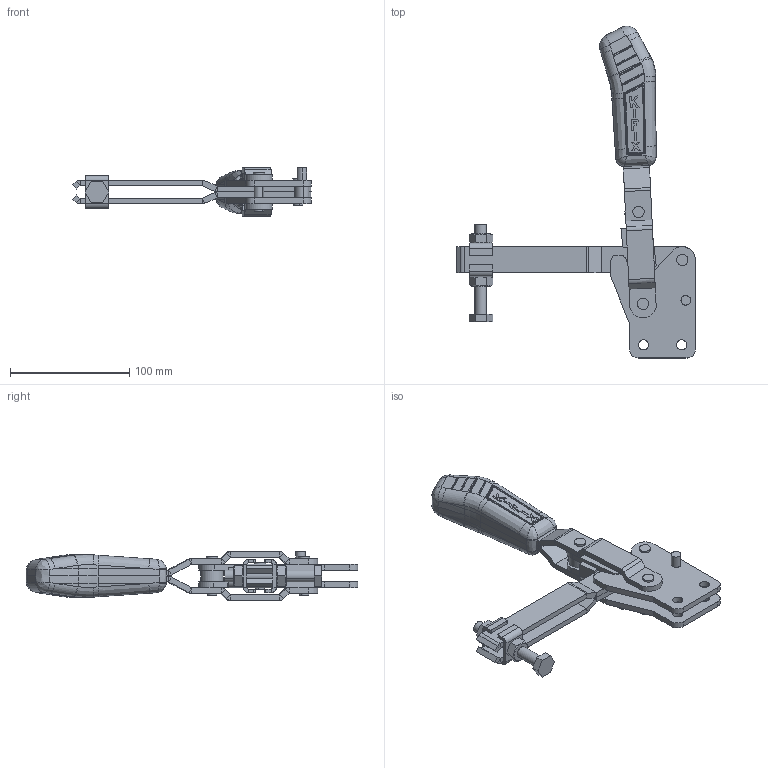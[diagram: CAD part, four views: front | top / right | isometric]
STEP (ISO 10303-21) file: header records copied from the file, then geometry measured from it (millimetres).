
FILE_DESCRIPTION (( 'STEP AP203' ), '1' );
FILE_NAME ('KF-111 RBL.STEP', '2014-07-28T19:01:33', ( 'Ricardo' ), ( '' ), 'SwSTEP 2.0', 'SolidWorks 2013', '' );
FILE_SCHEMA (( 'CONFIG_CONTROL_DESIGN' ));
Length unit declared in the file: millimetre
Products named in the file (14): KF-111 RBL; 05.20006; 06.50009; 06.50010; 14.10002; 03.14005; 11.50003; 01.10014; 12.50004; 04.10003A_Direita; 07.60003; 04.10003B_Direita; 02.11008; 04.20003
Assembly tree (20 placements, depth 2):
  KF-111 RBL
    03.14005  x2
    01.10014  x2
    04.10003A_Direita
    04.10003B_Direita
    04.20003
    05.20006
    06.50009  x2
    06.50010  x2
    14.10002  x2
    11.50003  x2
    12.50004
    07.60003
    02.11008  x2
Bounding box: 200.38 x 278.69 x 41 mm (x, y, z)
Volume: 270476 mm3; surface area: 111483.2 mm2
Topology: 20 solids, 20 shells, 845 faces, 2033 edges, 1239 vertices
Faces by surface type: plane 361, cylinder 258, bspline 143, sphere 48, cone 32, torus 3
Entity records: 24416 total; most frequent: CARTESIAN_POINT 8700, ORIENTED_EDGE 3178, DIRECTION 2538, EDGE_CURVE 1589, VERTEX_POINT 985, AXIS2_PLACEMENT_3D 973, EDGE_LOOP 718, FACE_OUTER_BOUND 657
